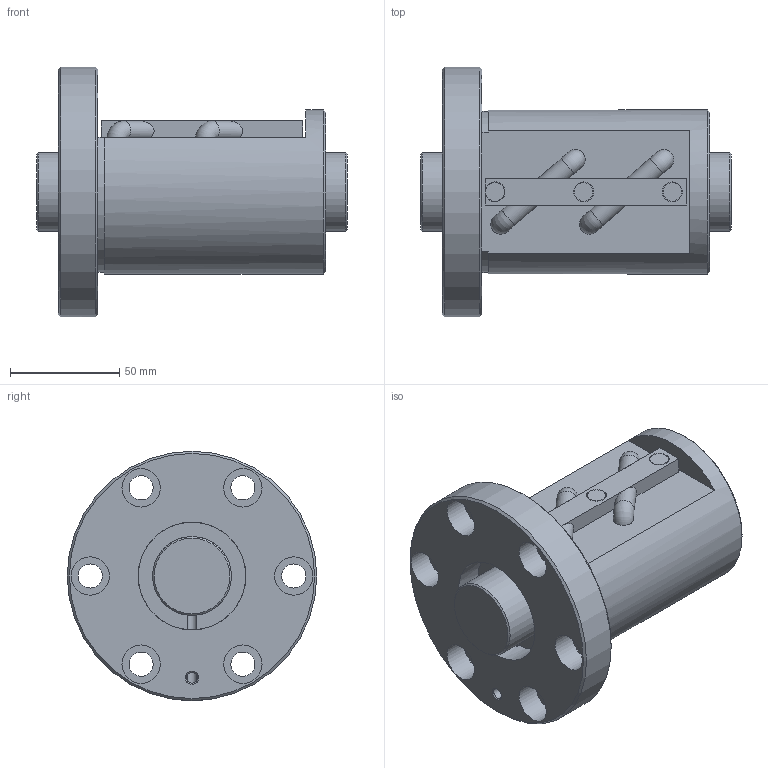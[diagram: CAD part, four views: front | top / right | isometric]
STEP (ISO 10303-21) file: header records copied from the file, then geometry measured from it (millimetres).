
FILE_DESCRIPTION(/* description */ ('STEP AP203'),/* implementation_level */ '2;1');
FILE_NAME(/* name */ 'BIF3620V-3RRG0+142LC0_000',/* time_stamp */ '2024-07-15T08:24:06+02:00',/* author */ ('License CC BY-ND 4.0'),/* organization */ ('CADENAS'),/* preprocessor_version */ 'ST-DEVELOPER v19.3',/* originating_system */ 'PARTsolutions',/* authorisation */ ' ');
FILE_SCHEMA (('CONFIG_CONTROL_DESIGN'));
Length unit declared in the file: millimetre
Products named in the file (3): BIF3620V-3RRG0+142LC0_000; BIF3620V-3RR000 Shaft; BIF3620V-3RR Nut
Assembly tree (2 placements, depth 2):
  BIF3620V-3RRG0+142LC0_000
    BIF3620V-3RR000 Shaft
    BIF3620V-3RR Nut
Bounding box: 142 x 114 x 114 mm (x, y, z)
Volume: 585872.4 mm3; surface area: 89267.3 mm2
Topology: 2 solids, 2 shells, 87 faces, 194 edges, 124 vertices
Faces by surface type: plane 43, cylinder 32, cone 8, torus 4
Full cylindrical faces by diameter (mm): 4.25 x2, 4.917 x1, 8.5 x3, 9.1 x2, 11 x6, 17.5 x6, 36 x2, 49.2 x2, 75 x1, 114 x1
Entity records: 2372 total; most frequent: CARTESIAN_POINT 462, DIRECTION 412, ORIENTED_EDGE 302, AXIS2_PLACEMENT_3D 182, EDGE_CURVE 151, EDGE_LOOP 150, FACE_BOUND 150, VERTEX_POINT 115
